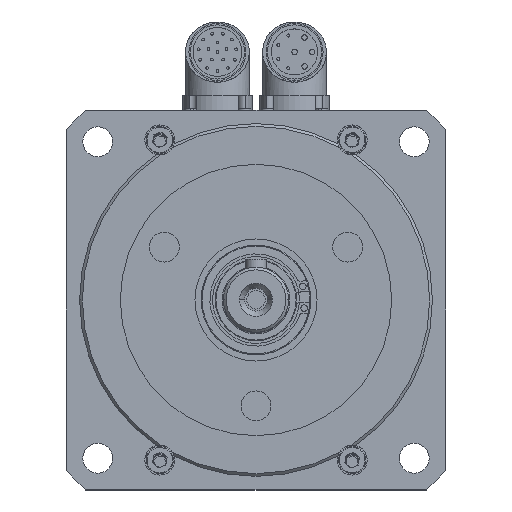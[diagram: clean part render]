
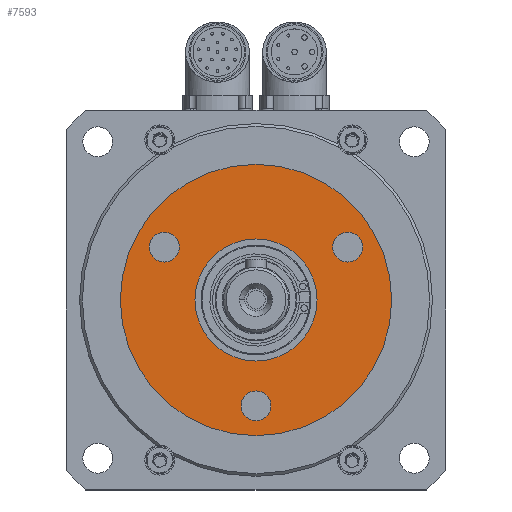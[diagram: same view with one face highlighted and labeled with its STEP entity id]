
A CAD part, top view. The second image highlights one B-rep face of the part: STEP entity #7593.
In plain terms, the highlighted planar face has unit normal (0, 0, 1).
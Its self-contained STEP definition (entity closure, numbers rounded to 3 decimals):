
#492 = AXIS2_PLACEMENT_3D ( 'NONE', #1422, #1424, #1425 ) ;
#1418 = PLANE ( 'NONE',  #492 ) ;
#1422 = CARTESIAN_POINT ( 'NONE',  ( 0., 50., 21.5 ) ) ;
#1424 = DIRECTION ( 'NONE',  ( 0., 0., 1. ) ) ;
#1425 = DIRECTION ( 'NONE',  ( 1., 0., 0. ) ) ;
#2205 = CARTESIAN_POINT ( 'NONE',  ( 0., -39., 21.5 ) ) ;
#2210 = CARTESIAN_POINT ( 'NONE',  ( 0., 0., 21.5 ) ) ;
#2211 = DIRECTION ( 'NONE',  ( 0., 0., 1. ) ) ;
#2212 = DIRECTION ( 'NONE',  ( 1., 0., 0. ) ) ;
#2219 = DIRECTION ( 'NONE',  ( 0., 0., 1. ) ) ;
#2220 = DIRECTION ( 'NONE',  ( 1., 0., 0. ) ) ;
#2224 = CARTESIAN_POINT ( 'NONE',  ( 0., 0., 21.5 ) ) ;
#2226 = DIRECTION ( 'NONE',  ( 0., 0., 1. ) ) ;
#2227 = DIRECTION ( 'NONE',  ( 1., 0., 0. ) ) ;
#2230 = CARTESIAN_POINT ( 'NONE',  ( 33.775, 19.5, 21.5 ) ) ;
#2237 = DIRECTION ( 'NONE',  ( 0., 0., 1. ) ) ;
#2238 = DIRECTION ( 'NONE',  ( 1., 0., 0. ) ) ;
#2242 = CARTESIAN_POINT ( 'NONE',  ( -33.775, 19.5, 21.5 ) ) ;
#2243 = DIRECTION ( 'NONE',  ( 0., 0., 1. ) ) ;
#2244 = DIRECTION ( 'NONE',  ( 1., 0., 0. ) ) ;
#2248 = CARTESIAN_POINT ( 'NONE',  ( 0., 0., 21.5 ) ) ;
#2249 = DIRECTION ( 'NONE',  ( 0., 0., 1. ) ) ;
#2250 = DIRECTION ( 'NONE',  ( 1., 0., 0. ) ) ;
#2484 = CARTESIAN_POINT ( 'NONE',  ( -33.775, 19.5, 21.5 ) ) ;
#2485 = DIRECTION ( 'NONE',  ( 0., 0., 1. ) ) ;
#2486 = DIRECTION ( 'NONE',  ( 1., 0., 0. ) ) ;
#2487 = CARTESIAN_POINT ( 'NONE',  ( 33.775, 19.5, 21.5 ) ) ;
#2488 = DIRECTION ( 'NONE',  ( 0., 0., 1. ) ) ;
#2489 = DIRECTION ( 'NONE',  ( 1., 0., 0. ) ) ;
#2490 = CARTESIAN_POINT ( 'NONE',  ( 0., 0., 21.5 ) ) ;
#2492 = DIRECTION ( 'NONE',  ( 0., 0., 1. ) ) ;
#2493 = DIRECTION ( 'NONE',  ( 1., 0., 0. ) ) ;
#2497 = CARTESIAN_POINT ( 'NONE',  ( 0., -39., 21.5 ) ) ;
#2498 = DIRECTION ( 'NONE',  ( 0., 0., 1. ) ) ;
#2499 = DIRECTION ( 'NONE',  ( 1., 0., 0. ) ) ;
#4968 = CIRCLE ( 'NONE', #11052, 5.5 ) ;
#4970 = CIRCLE ( 'NONE', #11053, 5.5 ) ;
#4972 = CIRCLE ( 'NONE', #11056, 50. ) ;
#4976 = CIRCLE ( 'NONE', #11055, 5.5 ) ;
#6802 = CARTESIAN_POINT ( 'NONE',  ( -39.275, 19.5, 21.5 ) ) ;
#7593 = ADVANCED_FACE ( 'NONE', ( #8532, #8539, #8541, #8543, #8534 ), #1418, .T. ) ;
#8101 = ORIENTED_EDGE ( 'NONE', *, *, #13730, .F. ) ;
#8102 = ORIENTED_EDGE ( 'NONE', *, *, #14415, .F. ) ;
#8103 = ORIENTED_EDGE ( 'NONE', *, *, #13728, .F. ) ;
#8104 = ORIENTED_EDGE ( 'NONE', *, *, #14416, .F. ) ;
#8105 = ORIENTED_EDGE ( 'NONE', *, *, #13722, .F. ) ;
#8106 = ORIENTED_EDGE ( 'NONE', *, *, #14420, .F. ) ;
#8107 = ORIENTED_EDGE ( 'NONE', *, *, #13732, .T. ) ;
#8532 = FACE_BOUND ( 'NONE', #12527, .T. ) ;
#8534 = FACE_BOUND ( 'NONE', #12367, .T. ) ;
#8539 = FACE_BOUND ( 'NONE', #12500, .T. ) ;
#8541 = FACE_BOUND ( 'NONE', #12496, .T. ) ;
#8543 = FACE_OUTER_BOUND ( 'NONE', #15966, .T. ) ;
#9175 = VERTEX_POINT ( 'NONE', #6802 ) ;
#11000 = AXIS2_PLACEMENT_3D ( 'NONE', #2210, #2211, #2212 ) ;
#11001 = AXIS2_PLACEMENT_3D ( 'NONE', #2224, #2226, #2227 ) ;
#11003 = AXIS2_PLACEMENT_3D ( 'NONE', #2205, #2219, #2220 ) ;
#11008 = AXIS2_PLACEMENT_3D ( 'NONE', #2230, #2237, #2238 ) ;
#11009 = AXIS2_PLACEMENT_3D ( 'NONE', #2242, #2243, #2244 ) ;
#11011 = AXIS2_PLACEMENT_3D ( 'NONE', #2248, #2249, #2250 ) ;
#11052 = AXIS2_PLACEMENT_3D ( 'NONE', #2484, #2485, #2486 ) ;
#11053 = AXIS2_PLACEMENT_3D ( 'NONE', #2487, #2488, #2489 ) ;
#11055 = AXIS2_PLACEMENT_3D ( 'NONE', #2497, #2498, #2499 ) ;
#11056 = AXIS2_PLACEMENT_3D ( 'NONE', #2490, #2492, #2493 ) ;
#12367 = EDGE_LOOP ( 'NONE', ( #13483, #13484 ) ) ;
#12496 = EDGE_LOOP ( 'NONE', ( #8105, #8106 ) ) ;
#12500 = EDGE_LOOP ( 'NONE', ( #8103, #8104 ) ) ;
#12527 = EDGE_LOOP ( 'NONE', ( #8101, #8102 ) ) ;
#13023 = CIRCLE ( 'NONE', #11000, 22.5 ) ;
#13026 = CIRCLE ( 'NONE', #11003, 5.5 ) ;
#13028 = CIRCLE ( 'NONE', #11001, 22.5 ) ;
#13033 = CIRCLE ( 'NONE', #11008, 5.5 ) ;
#13035 = CIRCLE ( 'NONE', #11009, 5.5 ) ;
#13038 = CIRCLE ( 'NONE', #11011, 50. ) ;
#13483 = ORIENTED_EDGE ( 'NONE', *, *, #13724, .F. ) ;
#13484 = ORIENTED_EDGE ( 'NONE', *, *, #13719, .F. ) ;
#13719 = EDGE_CURVE ( 'NONE', #15572, #15478, #13023, .T. ) ;
#13722 = EDGE_CURVE ( 'NONE', #15574, #15571, #13026, .T. ) ;
#13724 = EDGE_CURVE ( 'NONE', #15478, #15572, #13028, .T. ) ;
#13728 = EDGE_CURVE ( 'NONE', #15565, #15637, #13033, .T. ) ;
#13730 = EDGE_CURVE ( 'NONE', #15464, #9175, #13035, .T. ) ;
#13732 = EDGE_CURVE ( 'NONE', #15552, #15462, #13038, .T. ) ;
#13844 = ORIENTED_EDGE ( 'NONE', *, *, #14418, .T. ) ;
#14415 = EDGE_CURVE ( 'NONE', #9175, #15464, #4968, .T. ) ;
#14416 = EDGE_CURVE ( 'NONE', #15637, #15565, #4970, .T. ) ;
#14418 = EDGE_CURVE ( 'NONE', #15462, #15552, #4972, .T. ) ;
#14420 = EDGE_CURVE ( 'NONE', #15571, #15574, #4976, .T. ) ;
#15200 = CARTESIAN_POINT ( 'NONE',  ( -50., 0., 21.5 ) ) ;
#15202 = CARTESIAN_POINT ( 'NONE',  ( -28.275, 19.5, 21.5 ) ) ;
#15216 = CARTESIAN_POINT ( 'NONE',  ( 22.5, 0., 21.5 ) ) ;
#15290 = CARTESIAN_POINT ( 'NONE',  ( 50., 0., 21.5 ) ) ;
#15303 = CARTESIAN_POINT ( 'NONE',  ( 39.275, 19.5, 21.5 ) ) ;
#15309 = CARTESIAN_POINT ( 'NONE',  ( -5.5, -39., 21.5 ) ) ;
#15310 = CARTESIAN_POINT ( 'NONE',  ( -22.5, 0., 21.5 ) ) ;
#15312 = CARTESIAN_POINT ( 'NONE',  ( 5.5, -39., 21.5 ) ) ;
#15375 = CARTESIAN_POINT ( 'NONE',  ( 28.275, 19.5, 21.5 ) ) ;
#15462 = VERTEX_POINT ( 'NONE', #15200 ) ;
#15464 = VERTEX_POINT ( 'NONE', #15202 ) ;
#15478 = VERTEX_POINT ( 'NONE', #15216 ) ;
#15552 = VERTEX_POINT ( 'NONE', #15290 ) ;
#15565 = VERTEX_POINT ( 'NONE', #15303 ) ;
#15571 = VERTEX_POINT ( 'NONE', #15309 ) ;
#15572 = VERTEX_POINT ( 'NONE', #15310 ) ;
#15574 = VERTEX_POINT ( 'NONE', #15312 ) ;
#15637 = VERTEX_POINT ( 'NONE', #15375 ) ;
#15966 = EDGE_LOOP ( 'NONE', ( #8107, #13844 ) ) ;
